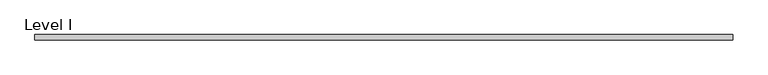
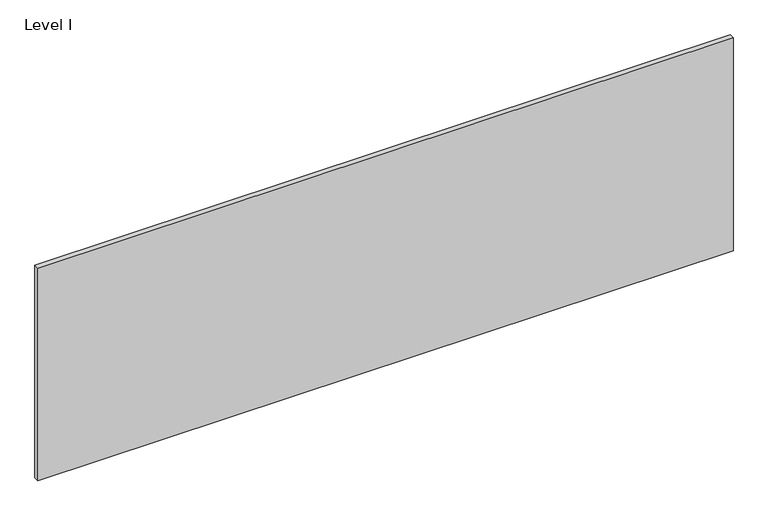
"""IFC4 building model written with IfcOpenShell, lengths in millimetres: proxy geometry, Panel-Fascia-Teknion-Altos-Landscape : Level I."""

from ifc_helpers import new_model, si_unit, frame, origin, place, context, project, spatial, polyline, outline, extrude, source, transform, mapped, element, save


def level_i_c2499e2a(model_context):
    return source(origin(), model_context, "Body", "SweptSolid", [
        extrude(outline(polyline([(1252.8407125, 9.525), (1252.8407125, -9.525), (-1252.8407125, -9.525), (-1252.8407125, 9.525), (1252.8407125, 9.525)])), frame((0.0, 0.0, 3.175), z_axis=(0.0, 0.0, 1.0), x_axis=(1.0, 0.0, 0.0)), (0.0, 0.0, 1.0), 810.768),
    ])


if __name__ == "__main__":
    model = new_model("IFC4")
    model_context = context("Model", 3, world=origin())
    ifc_project = project(units=[si_unit("LENGTHUNIT", "METRE", prefix="MILLI")], contexts=[model_context])
    site = spatial("IfcSite", under=ifc_project)
    building = spatial("IfcBuilding", under=site)
    placement = place(None, origin())
    level_i_shape = level_i_c2499e2a(model_context)
    element("IfcBuildingElementProxy", 1, Name="Panel-Fascia-Teknion-Altos-Landscape : Level I", ObjectType="Panel-Fascia-Teknion-Altos-Landscape : Level I", at=placement, inside=building, context=model_context, shape_type="MappedRepresentation", body=[
        mapped(level_i_shape, transform((0.0, 0.0, 0.0), x_axis=(1.0, 0.0, 0.0), y_axis=(0.0, 1.0, 0.0), z_axis=(0.0, 0.0, 1.0))),
    ])
    save(model, "model.ifc")
